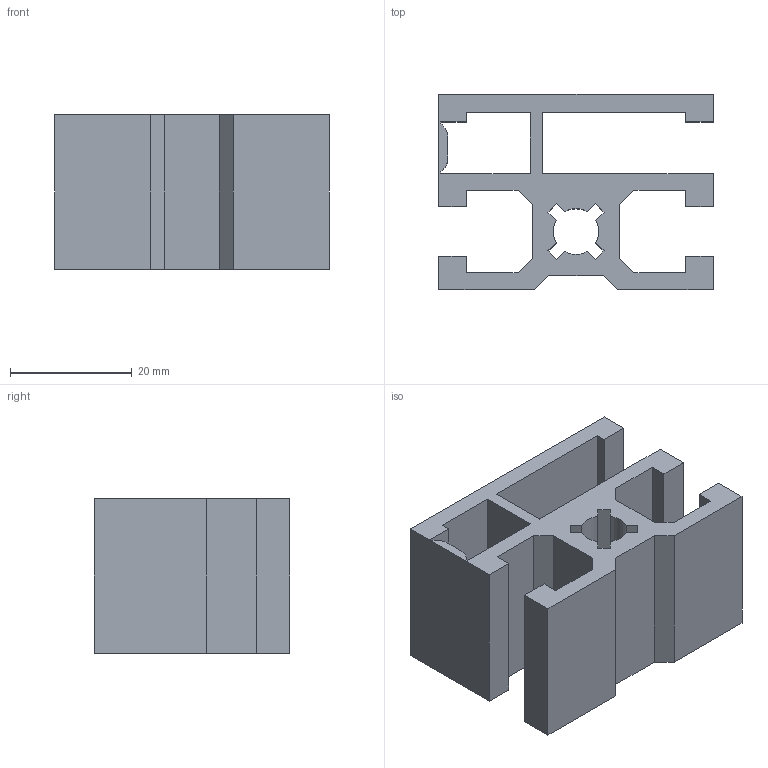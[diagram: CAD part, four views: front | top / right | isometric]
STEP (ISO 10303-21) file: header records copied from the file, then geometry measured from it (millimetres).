
FILE_DESCRIPTION((''),'2;1');
FILE_NAME('C:\Documents and Settings\Administrator\My Documents\Andys Backup Data\WEBSITE\DREAMWEAVER\MiniTec\Products\Aluminum_Profiles\CAD\STEP\20.1053 CLAMP PROFILE 45X32.stp','2012-11-12T13:27:53',('Administrator'),(''),'Autodesk Inventor 2009','Autodesk Inventor 2009','');
FILE_SCHEMA(('AUTOMOTIVE_DESIGN { 1 0 10303 214 1 1 1 1 }'));
Length unit declared in the file: inch
Products named in the file (1): 20.1053 CLAMP PROFILE 45X32
Bounding box: 45 x 32 x 25.4 mm (x, y, z)
Volume: 15044.7 mm3; surface area: 10863.2 mm2
Topology: 1 solids, 1 shells, 65 faces, 189 edges, 126 vertices
Faces by surface type: plane 59, cylinder 6
Entity records: 2151 total; most frequent: CARTESIAN_POINT 381, ORIENTED_EDGE 378, DIRECTION 333, EDGE_CURVE 189, VECTOR 177, LINE 177, VERTEX_POINT 126, AXIS2_PLACEMENT_3D 78
